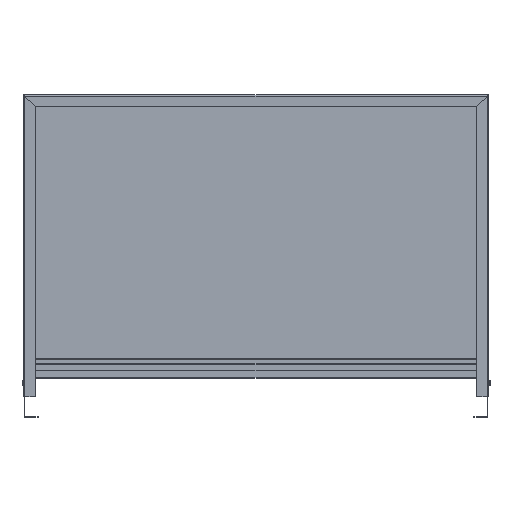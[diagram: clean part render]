
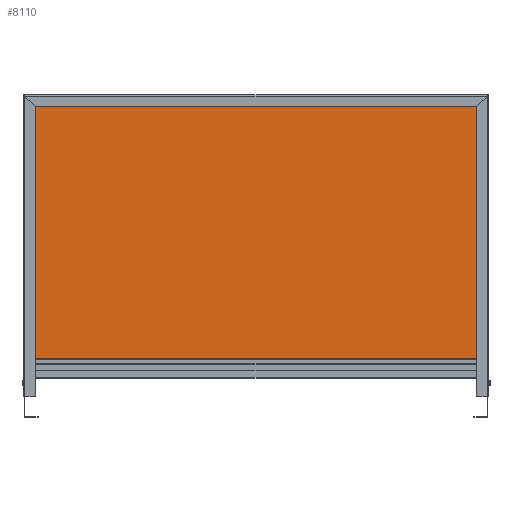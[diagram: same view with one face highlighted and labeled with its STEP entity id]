
A CAD part, front view. The second image highlights one B-rep face of the part: STEP entity #8110.
In plain terms, the highlighted planar face has unit normal (0, -1, 0).
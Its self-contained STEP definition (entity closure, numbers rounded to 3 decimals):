
#3022=CARTESIAN_POINT('',(-475.5,0.8,81.8));
#3023=VERTEX_POINT('',#3022);
#3056=CARTESIAN_POINT('',(-497.771,0.8,647.2));
#3057=VERTEX_POINT('',#3056);
#3087=CARTESIAN_POINT('',(-475.5,0.8,624.929));
#3088=VERTEX_POINT('',#3087);
#3095=CARTESIAN_POINT('',(-475.5,0.8,624.929));
#3096=DIRECTION('',(-0.707,-0.,0.707));
#3097=VECTOR('',#3096,31.496);
#3098=LINE('',#3095,#3097);
#3099=EDGE_CURVE('',#3088,#3057,#3098,.T.);
#3124=CARTESIAN_POINT('',(-475.5,0.8,624.929));
#3125=DIRECTION('',(0.,0.,-1.));
#3126=VECTOR('',#3125,543.129);
#3127=LINE('',#3124,#3126);
#3128=EDGE_CURVE('',#3088,#3023,#3127,.T.);
#3280=CARTESIAN_POINT('',(475.5,0.8,81.8));
#3281=VERTEX_POINT('',#3280);
#3296=CARTESIAN_POINT('',(497.771,0.8,647.2));
#3297=VERTEX_POINT('',#3296);
#3350=CARTESIAN_POINT('',(475.5,0.8,624.929));
#3351=VERTEX_POINT('',#3350);
#3352=CARTESIAN_POINT('',(497.771,0.8,647.2));
#3353=DIRECTION('',(-0.707,0.,-0.707));
#3354=VECTOR('',#3353,31.496);
#3355=LINE('',#3352,#3354);
#3356=EDGE_CURVE('',#3297,#3351,#3355,.T.);
#3374=CARTESIAN_POINT('',(475.5,0.8,81.8));
#3375=DIRECTION('',(0.,0.,1.));
#3376=VECTOR('',#3375,543.129);
#3377=LINE('',#3374,#3376);
#3378=EDGE_CURVE('',#3281,#3351,#3377,.T.);
#3536=CARTESIAN_POINT('',(-497.629,0.8,647.2));
#3537=VERTEX_POINT('',#3536);
#3544=CARTESIAN_POINT('',(-475.429,0.8,625.));
#3545=VERTEX_POINT('',#3544);
#3546=CARTESIAN_POINT('',(-497.629,0.8,647.2));
#3547=DIRECTION('',(0.707,0.,-0.707));
#3548=VECTOR('',#3547,31.396);
#3549=LINE('',#3546,#3548);
#3550=EDGE_CURVE('',#3537,#3545,#3549,.T.);
#3597=CARTESIAN_POINT('',(497.629,0.8,647.2));
#3598=VERTEX_POINT('',#3597);
#3629=CARTESIAN_POINT('',(475.429,0.8,625.));
#3630=VERTEX_POINT('',#3629);
#3637=CARTESIAN_POINT('',(475.429,0.8,625.));
#3638=DIRECTION('',(0.707,-0.,0.707));
#3639=VECTOR('',#3638,31.396);
#3640=LINE('',#3637,#3639);
#3641=EDGE_CURVE('',#3630,#3598,#3640,.T.);
#3660=CARTESIAN_POINT('',(475.429,0.8,625.));
#3661=DIRECTION('',(-1.,0.,0.));
#3662=VECTOR('',#3661,950.859);
#3663=LINE('',#3660,#3662);
#3664=EDGE_CURVE('',#3630,#3545,#3663,.T.);
#8078=CARTESIAN_POINT('',(0.,0.8,0.));
#8079=DIRECTION('',(0.,1.,0.));
#8080=DIRECTION('',(-1.,0.,0.));
#8081=AXIS2_PLACEMENT_3D('',#8078,#8079,#8080);
#8082=PLANE('',#8081);
#8083=ORIENTED_EDGE('',*,*,#3099,.F.);
#8084=ORIENTED_EDGE('',*,*,#3128,.T.);
#8085=CARTESIAN_POINT('',(475.5,0.8,81.8));
#8086=DIRECTION('',(-1.,0.,0.));
#8087=VECTOR('',#8086,951.);
#8088=LINE('',#8085,#8087);
#8089=EDGE_CURVE('',#3281,#3023,#8088,.T.);
#8090=ORIENTED_EDGE('',*,*,#8089,.F.);
#8091=ORIENTED_EDGE('',*,*,#3378,.T.);
#8092=ORIENTED_EDGE('',*,*,#3356,.F.);
#8093=CARTESIAN_POINT('',(497.629,0.8,647.2));
#8094=DIRECTION('',(1.,0.,-0.));
#8095=VECTOR('',#8094,0.141);
#8096=LINE('',#8093,#8095);
#8097=EDGE_CURVE('',#3598,#3297,#8096,.T.);
#8098=ORIENTED_EDGE('',*,*,#8097,.F.);
#8099=ORIENTED_EDGE('',*,*,#3641,.F.);
#8100=ORIENTED_EDGE('',*,*,#3664,.T.);
#8101=ORIENTED_EDGE('',*,*,#3550,.F.);
#8102=CARTESIAN_POINT('',(-497.771,0.8,647.2));
#8103=DIRECTION('',(1.,0.,-0.));
#8104=VECTOR('',#8103,0.141);
#8105=LINE('',#8102,#8104);
#8106=EDGE_CURVE('',#3057,#3537,#8105,.T.);
#8107=ORIENTED_EDGE('',*,*,#8106,.F.);
#8108=EDGE_LOOP('',(#8083,#8084,#8090,#8091,#8092,#8098,#8099,#8100,#8101,#8107));
#8109=FACE_BOUND('',#8108,.T.);
#8110=ADVANCED_FACE('',(#8109),#8082,.F.);
